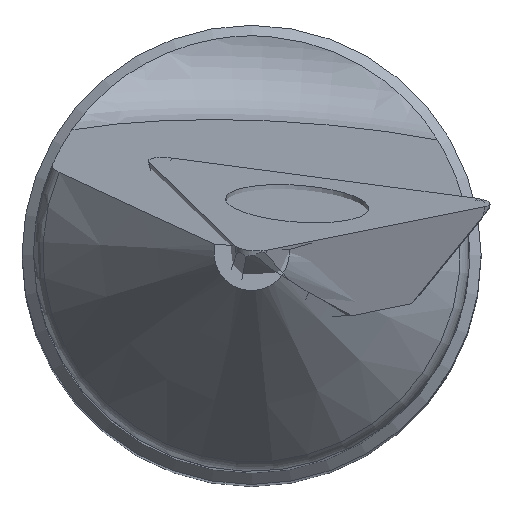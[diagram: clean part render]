
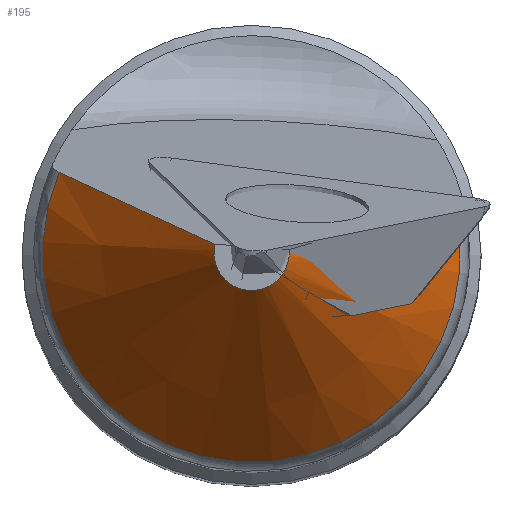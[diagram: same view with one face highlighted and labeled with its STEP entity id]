
A CAD part, top view. The second image highlights one B-rep face of the part: STEP entity #195.
In plain terms, the highlighted conical face has half-angle 36.982 degrees and reference radius 1.639 mm.
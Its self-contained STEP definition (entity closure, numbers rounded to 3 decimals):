
#108=CONICAL_SURFACE('',#741,1.639,36.982);
#140=FACE_OUTER_BOUND('',#277,.T.);
#162=B_SPLINE_CURVE_WITH_KNOTS('',3,(#1121,#1122,#1123,#1124,#1125,#1126,
#1127),.UNSPECIFIED.,.F.,.F.,(4,3,4),(0.,0.697,1.),.UNSPECIFIED.);
#163=B_SPLINE_CURVE_WITH_KNOTS('',3,(#1132,#1133,#1134,#1135,#1136,#1137,
#1138,#1139,#1140,#1141),.UNSPECIFIED.,.F.,.F.,(4,3,3,4),(0.,0.165,
0.824,1.),.UNSPECIFIED.);
#195=ADVANCED_FACE('',(#140),#108,.T.);
#277=EDGE_LOOP('',(#484,#485,#486,#487));
#484=ORIENTED_EDGE('',*,*,#655,.F.);
#485=ORIENTED_EDGE('',*,*,#656,.T.);
#486=ORIENTED_EDGE('',*,*,#657,.T.);
#487=ORIENTED_EDGE('',*,*,#658,.T.);
#578=VERTEX_POINT('',#1128);
#579=VERTEX_POINT('',#1129);
#580=VERTEX_POINT('',#1131);
#581=VERTEX_POINT('',#1142);
#655=EDGE_CURVE('',#578,#579,#162,.T.);
#656=EDGE_CURVE('',#578,#580,#691,.T.);
#657=EDGE_CURVE('',#580,#581,#163,.T.);
#658=EDGE_CURVE('',#581,#579,#692,.T.);
#691=CIRCLE('',#739,1.639);
#692=CIRCLE('',#740,9.098);
#739=AXIS2_PLACEMENT_3D('',#1130,#874,#875);
#740=AXIS2_PLACEMENT_3D('',#1143,#876,#877);
#741=AXIS2_PLACEMENT_3D('',#1144,#878,#879);
#874=DIRECTION('',(0.,0.,-1.));
#875=DIRECTION('',(-1.,0.,0.));
#876=DIRECTION('',(0.,0.,1.));
#877=DIRECTION('',(1.,0.,0.));
#878=DIRECTION('',(0.,0.,-1.));
#879=DIRECTION('',(-1.,0.,0.));
#1121=CARTESIAN_POINT('',(1.632,0.15,-1.407));
#1122=CARTESIAN_POINT('',(3.319,0.641,-3.697));
#1123=CARTESIAN_POINT('',(4.975,1.141,-6.008));
#1124=CARTESIAN_POINT('',(6.64,1.638,-8.312));
#1125=CARTESIAN_POINT('',(7.362,1.853,-9.312));
#1126=CARTESIAN_POINT('',(8.084,2.069,-10.312));
#1127=CARTESIAN_POINT('',(8.806,2.284,-11.312));
#1128=CARTESIAN_POINT('',(1.632,0.15,-1.407));
#1129=CARTESIAN_POINT('',(8.806,2.284,-11.312));
#1130=CARTESIAN_POINT('',(0.,0.,-1.407));
#1131=CARTESIAN_POINT('',(-1.593,0.383,-1.407));
#1132=CARTESIAN_POINT('',(-1.593,0.383,-1.407));
#1133=CARTESIAN_POINT('',(-1.971,0.556,-1.948));
#1134=CARTESIAN_POINT('',(-2.345,0.728,-2.491));
#1135=CARTESIAN_POINT('',(-2.719,0.901,-3.035));
#1136=CARTESIAN_POINT('',(-4.216,1.592,-5.21));
#1137=CARTESIAN_POINT('',(-5.704,2.284,-7.389));
#1138=CARTESIAN_POINT('',(-7.194,2.975,-9.568));
#1139=CARTESIAN_POINT('',(-7.591,3.16,-10.149));
#1140=CARTESIAN_POINT('',(-7.988,3.344,-10.73));
#1141=CARTESIAN_POINT('',(-8.385,3.529,-11.312));
#1142=CARTESIAN_POINT('',(-8.385,3.529,-11.312));
#1143=CARTESIAN_POINT('',(0.,0.,-11.312));
#1144=CARTESIAN_POINT('',(0.,0.,-1.407));
